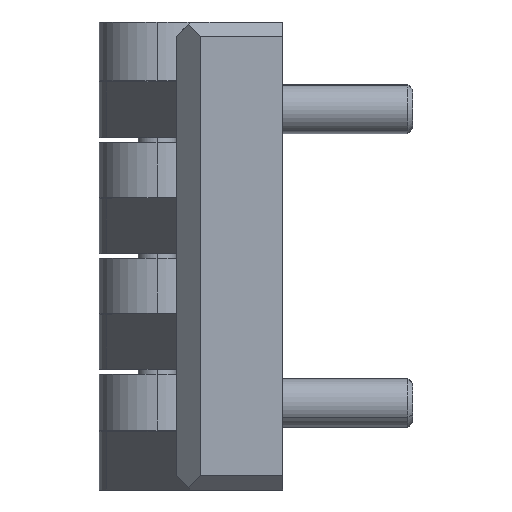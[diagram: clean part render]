
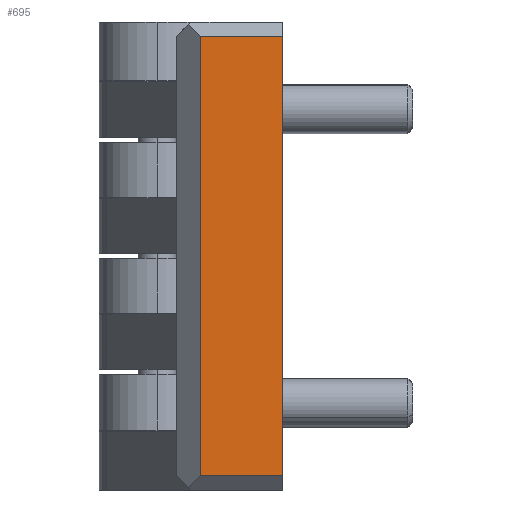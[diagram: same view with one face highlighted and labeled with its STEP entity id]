
A CAD part, left-side view. The second image highlights one B-rep face of the part: STEP entity #695.
In plain terms, the highlighted planar face has unit normal (-1, 0, 0).
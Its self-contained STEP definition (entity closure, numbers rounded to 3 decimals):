
#647 = VERTEX_POINT ( 'NONE', #4610 ) ;
#657 = VERTEX_POINT ( 'NONE', #4614 ) ;
#666 = EDGE_CURVE ( 'NONE', #647, #657, #4652, .T. ) ;
#675 = EDGE_CURVE ( 'NONE', #676, #680, #4688, .T. ) ;
#676 = VERTEX_POINT ( 'NONE', #4683 ) ;
#678 = EDGE_CURVE ( 'NONE', #647, #676, #4682, .T. ) ;
#679 = ORIENTED_EDGE ( 'NONE', *, *, #675, .T. ) ;
#680 = VERTEX_POINT ( 'NONE', #4648 ) ;
#683 = ORIENTED_EDGE ( 'NONE', *, *, #678, .T. ) ;
#684 = EDGE_LOOP ( 'NONE', ( #683, #679, #694, #3350 ) ) ;
#694 = ORIENTED_EDGE ( 'NONE', *, *, #3346, .T. ) ;
#695 = ADVANCED_FACE ( 'NONE', ( #4661 ), #4667, .F. ) ;
#3346 = EDGE_CURVE ( 'NONE', #680, #657, #8901, .T. ) ;
#3350 = ORIENTED_EDGE ( 'NONE', *, *, #666, .F. ) ;
#4610 = CARTESIAN_POINT ( 'NONE',  ( 0., 0., 47. ) ) ;
#4614 = CARTESIAN_POINT ( 'NONE',  ( 0., 0., 1.5 ) ) ;
#4632 = DIRECTION ( 'NONE',  ( 0., 0., -1. ) ) ;
#4633 = VECTOR ( 'NONE', #4632, 1000. ) ;
#4634 = CARTESIAN_POINT ( 'NONE',  ( 0., 0., 48.5 ) ) ;
#4648 = CARTESIAN_POINT ( 'NONE',  ( 0., 8.5, 1.5 ) ) ;
#4652 = LINE ( 'NONE', #4634, #4633 ) ;
#4661 = FACE_OUTER_BOUND ( 'NONE', #684, .T. ) ;
#4667 = PLANE ( 'NONE',  #4711 ) ;
#4673 = DIRECTION ( 'NONE',  ( 0., 1., 0. ) ) ;
#4674 = VECTOR ( 'NONE', #4673, 1000. ) ;
#4679 = DIRECTION ( 'NONE',  ( 0., 0., -1. ) ) ;
#4680 = VECTOR ( 'NONE', #4679, 1000. ) ;
#4681 = CARTESIAN_POINT ( 'NONE',  ( 0., 11., 47. ) ) ;
#4682 = LINE ( 'NONE', #4681, #4674 ) ;
#4683 = CARTESIAN_POINT ( 'NONE',  ( 0., 8.5, 47. ) ) ;
#4688 = LINE ( 'NONE', #4689, #4680 ) ;
#4689 = CARTESIAN_POINT ( 'NONE',  ( 0., 8.5, 48.5 ) ) ;
#4708 = DIRECTION ( 'NONE',  ( 0., 0., -1. ) ) ;
#4709 = DIRECTION ( 'NONE',  ( 1., 0., 0. ) ) ;
#4710 = CARTESIAN_POINT ( 'NONE',  ( 0., 11., 48.5 ) ) ;
#4711 = AXIS2_PLACEMENT_3D ( 'NONE', #4710, #4709, #4708 ) ;
#8901 = LINE ( 'NONE', #8937, #8933 ) ;
#8933 = VECTOR ( 'NONE', #8936, 1000. ) ;
#8936 = DIRECTION ( 'NONE',  ( 0., -1., 0. ) ) ;
#8937 = CARTESIAN_POINT ( 'NONE',  ( 0., 0., 1.5 ) ) ;
